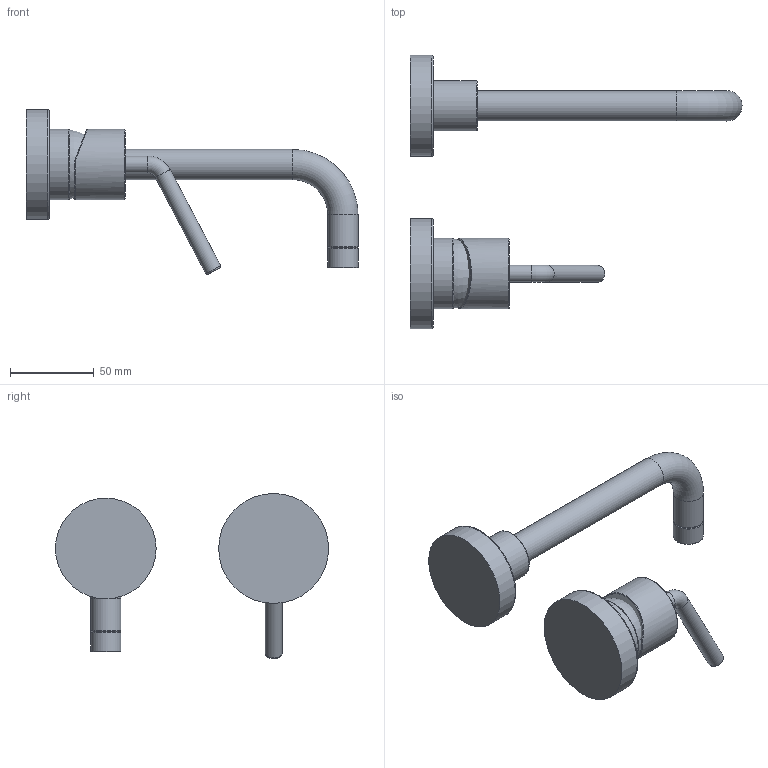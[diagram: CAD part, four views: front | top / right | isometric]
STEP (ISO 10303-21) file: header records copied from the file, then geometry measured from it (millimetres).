
FILE_DESCRIPTION(('STEP AP214'), '1');
FILE_NAME('81CR208NEW', '', ('UNSPECIFIED'), ('UNSPECIFIED'), 'ASCON STEP Converter 1.6', 'ASCON Math Kernel', '');
FILE_SCHEMA(('AUTOMOTIVE_DESIGN { 1 0 10303 214 3 1 1}'));
Length unit declared in the file: millimetre
Bounding box: 197.81 x 162.75 x 98.28 mm (x, y, z)
Volume: 234046.6 mm3; surface area: 43240.2 mm2
Topology: 3 solids, 3 shells, 38 faces, 65 edges, 35 vertices
Faces by surface type: torus 13, plane 11, cylinder 11, bspline 3
Full cylindrical faces by diameter (mm): 10 x2, 18 x3, 30 x1, 42 x2, 60 x1, 65.5 x1
Entity records: 4935 total; most frequent: CARTESIAN_POINT 3954, DIRECTION 144, ORIENTED_EDGE 82, AXIS2_PLACEMENT_3D 71, EDGE_LOOP 64, FACE_OUTER_BOUND 43, COLOUR_RGB 41, FILL_AREA_STYLE_COLOUR 41
